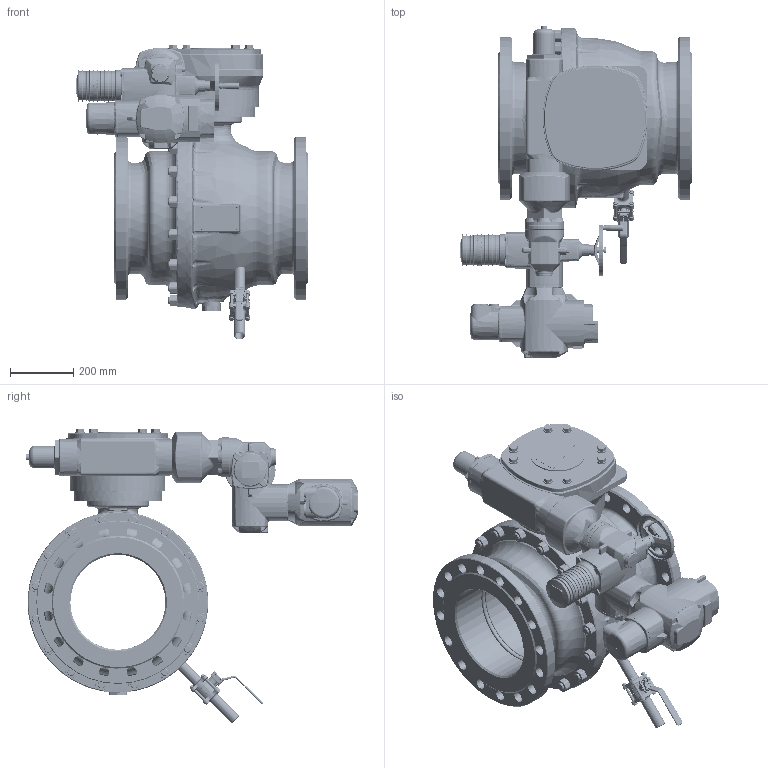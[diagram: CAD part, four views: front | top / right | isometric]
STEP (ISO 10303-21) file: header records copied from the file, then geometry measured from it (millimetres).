
FILE_DESCRIPTION((''),'2;1');
FILE_NAME('250_ASM','2017-01-17T',('schwaba'),('RAND'),'PRO/ENGINEER BY PARAMETRIC TECHNOLOGY CORPORATION, 2016100','PRO/ENGINEER BY PARAMETRIC TECHNOLOGY CORPORATION, 2016100','');
FILE_SCHEMA(('CONFIG_CONTROL_DESIGN'));
Products named in the file (3): KHI_300_PN40_FR_WE_ENTL_O_IT; GS160_F25_SA07_AM_ZWPL_DN300; 250_ASM
Assembly tree (2 placements, depth 2):
  250_ASM
    KHI_300_PN40_FR_WE_ENTL_O_IT
    GS160_F25_SA07_AM_ZWPL_DN300
Bounding box: 730 x 1048 x 930.09 mm (x, y, z)
Volume: 77141379.6 mm3; surface area: 5678878.3 mm2
Topology: 3 solids, 11 shells, 6224 faces, 15335 edges, 9272 vertices
Faces by surface type: plane 2008, bspline 1337, cylinder 1329, torus 762, cone 667, sphere 121
Entity records: 413926 total; most frequent: CARTESIAN_POINT 276152, ORIENTED_EDGE 30552, DIRECTION 26724, EDGE_CURVE 15276, AXIS2_PLACEMENT_3D 10476, VERTEX_POINT 9272, EDGE_LOOP 6576, FACE_OUTER_BOUND 6224
